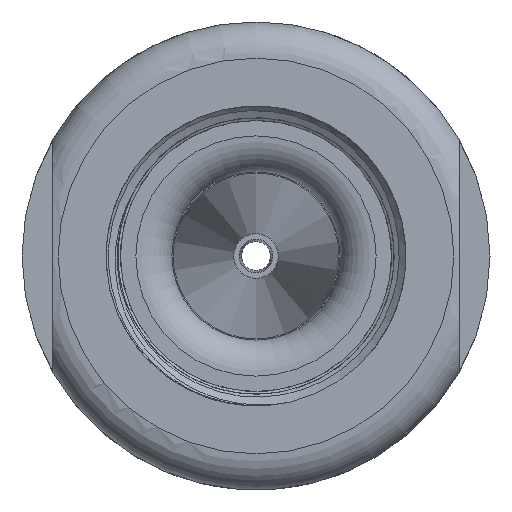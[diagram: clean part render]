
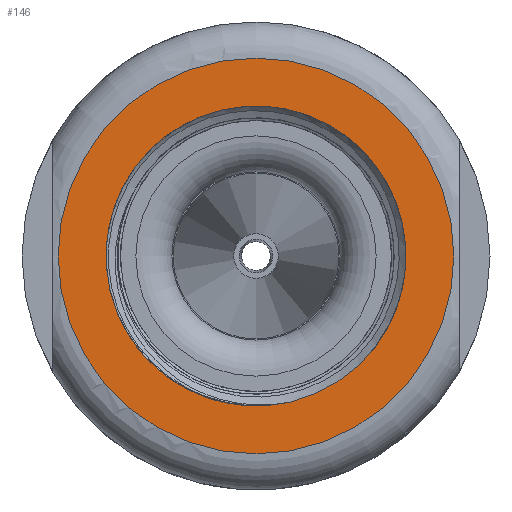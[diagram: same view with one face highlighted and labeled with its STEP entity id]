
A CAD part, left-side view. The second image highlights one B-rep face of the part: STEP entity #146.
In plain terms, the highlighted planar face has unit normal (-1, 0, 0).
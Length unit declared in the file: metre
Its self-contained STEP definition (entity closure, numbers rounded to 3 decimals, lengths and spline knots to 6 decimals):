
#146 = ADVANCED_FACE( '', ( #280, #281 ), #282, .F. );
#280 = FACE_BOUND( '', #2759, .T. );
#281 = FACE_OUTER_BOUND( '', #2760, .T. );
#282 = PLANE( '', #2761 );
#2759 = EDGE_LOOP( '', ( #3679, #3680, #3681 ) );
#2760 = EDGE_LOOP( '', ( #3682 ) );
#2761 = AXIS2_PLACEMENT_3D( '', #3683, #3684, #3685 );
#3679 = ORIENTED_EDGE( '', *, *, #4179, .F. );
#3680 = ORIENTED_EDGE( '', *, *, #4177, .T. );
#3681 = ORIENTED_EDGE( '', *, *, #4182, .T. );
#3682 = ORIENTED_EDGE( '', *, *, #4161, .T. );
#3683 = CARTESIAN_POINT( '', ( -0.0828, 0., 0.01095 ) );
#3684 = DIRECTION( '', ( 1., 0., 0. ) );
#3685 = DIRECTION( '', ( 0., 0., -1. ) );
#4161 = EDGE_CURVE( '', #4347, #4347, #4348, .T. );
#4177 = EDGE_CURVE( '', #4366, #4371, #4373, .T. );
#4179 = EDGE_CURVE( '', #4366, #4374, #4376, .T. );
#4182 = EDGE_CURVE( '', #4371, #4374, #4381, .T. );
#4347 = VERTEX_POINT( '', #5414 );
#4348 = CIRCLE( '', #5415, 0.01095 );
#4366 = VERTEX_POINT( '', #5566 );
#4371 = VERTEX_POINT( '', #5764 );
#4373 = B_SPLINE_CURVE_WITH_KNOTS( '', 3, ( #5937, #5938, #5939, #5940 ), .UNSPECIFIED., .F., .F., ( 4, 4 ), ( 0.0251, 0.025119 ), .UNSPECIFIED. );
#4374 = VERTEX_POINT( '', #5941 );
#4376 = CIRCLE( '', #6052, 0.0083 );
#4381 = B_SPLINE_CURVE_WITH_KNOTS( '', 3, ( #6057, #6058, #6059, #6060 ), .UNSPECIFIED., .F., .F., ( 4, 4 ), ( 0., 0.000019 ), .UNSPECIFIED. );
#5414 = CARTESIAN_POINT( '', ( -0.0828, 0., 0.01095 ) );
#5415 = AXIS2_PLACEMENT_3D( '', #6312, #6313, #6314 );
#5566 = CARTESIAN_POINT( '', ( -0.0828, -0.001887, -0.008083 ) );
#5764 = CARTESIAN_POINT( '', ( -0.0828, -0.001869, -0.008087 ) );
#5937 = CARTESIAN_POINT( '', ( -0.0828, -0.001887, -0.008083 ) );
#5938 = CARTESIAN_POINT( '', ( -0.0828, -0.001881, -0.008084 ) );
#5939 = CARTESIAN_POINT( '', ( -0.0828, -0.001875, -0.008086 ) );
#5940 = CARTESIAN_POINT( '', ( -0.0828, -0.001869, -0.008087 ) );
#5941 = CARTESIAN_POINT( '', ( -0.0828, -0.00185, -0.008091 ) );
#6052 = AXIS2_PLACEMENT_3D( '', #6320, #6321, #6322 );
#6057 = CARTESIAN_POINT( '', ( -0.0828, -0.001869, -0.008087 ) );
#6058 = CARTESIAN_POINT( '', ( -0.0828, -0.001863, -0.008089 ) );
#6059 = CARTESIAN_POINT( '', ( -0.0828, -0.001856, -0.00809 ) );
#6060 = CARTESIAN_POINT( '', ( -0.0828, -0.00185, -0.008091 ) );
#6312 = CARTESIAN_POINT( '', ( -0.0828, 0., 0. ) );
#6313 = DIRECTION( '', ( -1., 0., 0. ) );
#6314 = DIRECTION( '', ( 0., 0., 1. ) );
#6320 = CARTESIAN_POINT( '', ( -0.0828, 0., 0. ) );
#6321 = DIRECTION( '', ( -1., 0., 0. ) );
#6322 = DIRECTION( '', ( 0., 0., 1. ) );
